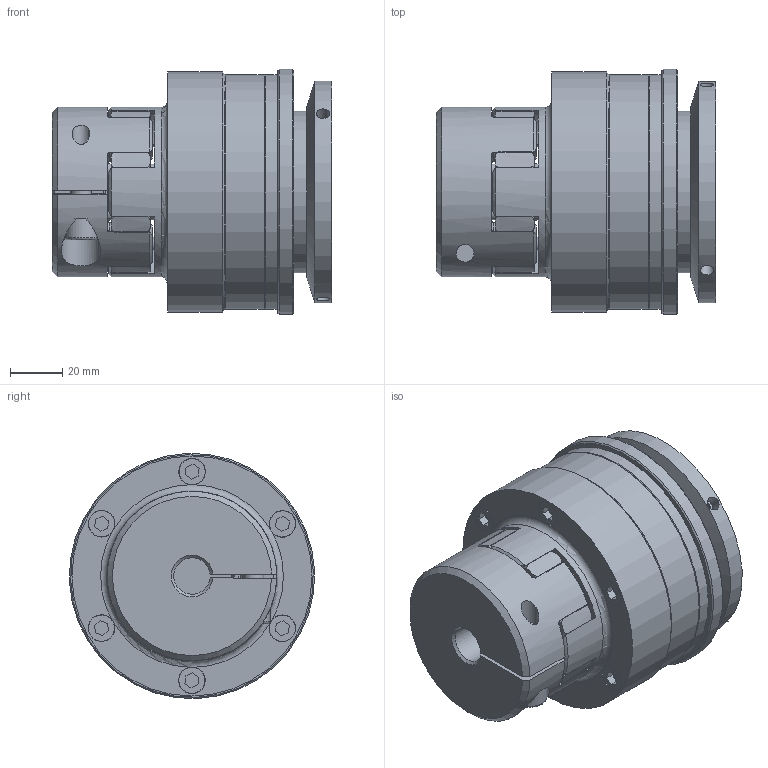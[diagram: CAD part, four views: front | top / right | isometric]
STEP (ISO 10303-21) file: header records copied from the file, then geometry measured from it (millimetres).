
FILE_DESCRIPTION( ( 'Unknown' ), '1' );
FILE_NAME( 'C:/Users/skarpstein/Desktop/Korrigierte 3D Modelle/KBK-E-KP/KBK EKP-28-107.stp', 'Unknown', ( 'Unknown' ), ( 'Unknown' ), 'PSStep 16.0.42', 'Unknown', ' ' );
FILE_SCHEMA( ( 'AUTOMOTIVE_DESIGN { 1 0 10303 214 1 1 1 1 }' ) );
Length unit declared in the file: millimetre
Products named in the file (27): ball_bearing_-_6008_0_03; Zylinderschraube DIN 912_0; ball_bearing_-_6008_0_02; ball_bearing_-_6008_0_01; Elastomerflansch 28; Assem2_0; Flansch 80; Druckring 80; a_40; Assem1_1; Zahnkranz EK28_Standard; Stellring 80; KBK L-P-80 Grundkörper; Assem1; KBE 2C - 28_Nabe; ISO EN DIN 4762 M8x25
Assembly tree (31 placements, depth 4):
  Assem1
    KBE 2C - 28_Nabe
    ISO EN DIN 4762 M8x25
    Stellring 80
      Stellring 80
    Druckring 80
      Druckring 80
    Flansch 80
      Flansch 80
    a_40
      a_40
    Zahnkranz EK28_Standard
      Zahnkranz EK28_Standard
    Elastomerflansch 28
      Elastomerflansch 28
    KBK L-P-80 Grundkörper
      KBK L-P-80 Grundkörper
    Assem2_0
      ball_bearing_-_6008_0_01
        ball_bearing_-_6008_0_01
      ball_bearing_-_6008_0_02
        ball_bearing_-_6008_0_02
      ball_bearing_-_6008_0_03
        ball_bearing_-_6008_0_03
    Assem1_1  x6
      Zylinderschraube DIN 912_0
        Zylinderschraube DIN 912_0
Bounding box: 107.05 x 93.92 x 93.92 mm (x, y, z)
Volume: 439398.4 mm3; surface area: 140024.3 mm2
Topology: 18 solids, 18 shells, 440 faces, 1000 edges, 639 vertices
Faces by surface type: plane 164, cylinder 149, cone 105, torus 22
Full cylindrical faces by diameter (mm): 2.5 x2, 3.242 x3, 4.917 x6, 5 x12, 5.2 x3, 6 x6, 6.2 x6, 6.8 x1, 7 x1, 8 x2, 9 x1, 10 x6, 10.2 x6, 13 x1, 30 x3, 37.5 x1, 40 x3, 49.2 x2, 59.1 x2, 61 x1, 62 x2, 65 x1, 68 x3, 70 x1, 85 x1, 87 x1, 90 x2, 92 x1, 94 x1
Entity records: 14212 total; most frequent: CARTESIAN_POINT 2687, DIRECTION 1846, ORIENTED_EDGE 1422, AXIS2_PLACEMENT_3D 849, EDGE_CURVE 711, EDGE_LOOP 559, VERTEX_POINT 508, FACE_OUTER_BOUND 457
